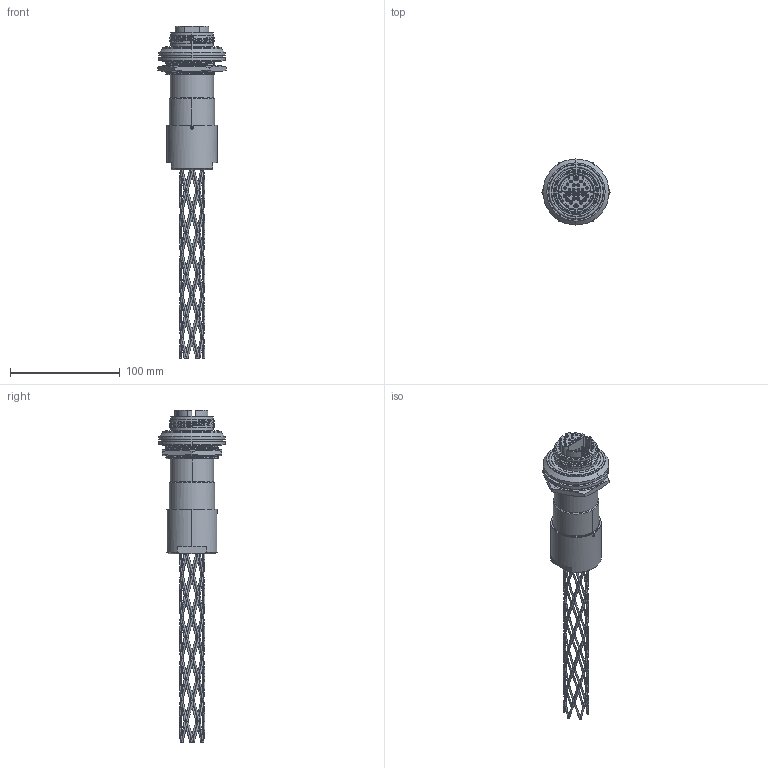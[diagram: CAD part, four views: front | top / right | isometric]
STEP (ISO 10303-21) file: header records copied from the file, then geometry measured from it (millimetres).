
FILE_DESCRIPTION (( 'STEP AP214' ), '1' );
FILE_NAME ('QFOCA3-G1-RLFX-24X-X-GX.STEP', '2025-08-05T21:32:26', ( '' ), ( '' ), 'SwSTEP 2.0', 'SolidWorks 2024', '' );
FILE_SCHEMA (( 'AUTOMOTIVE_DESIGN' ));
Length unit declared in the file: inch
Products named in the file (1): QFOCA3-G1-RLFX-24X-X-GX
Bounding box: 62.33 x 60.07 x 301.94 mm (x, y, z)
Volume: 196036.6 mm3; surface area: 52383.2 mm2
Topology: 5 solids, 14 shells, 1309 faces, 3162 edges, 1863 vertices
Faces by surface type: cylinder 369, bspline 256, cone 256, plane 228, torus 200
Entity records: 152249 total; most frequent: CARTESIAN_POINT 124024, ORIENTED_EDGE 6320, DIRECTION 5657, EDGE_CURVE 3160, AXIS2_PLACEMENT_3D 2411, VERTEX_POINT 1863, EDGE_LOOP 1427, CIRCLE 1357
